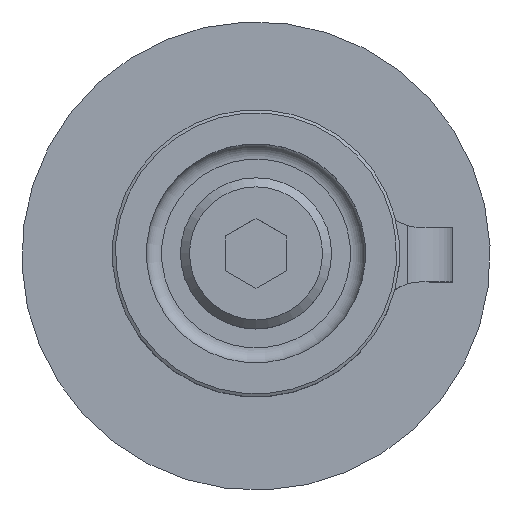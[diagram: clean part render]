
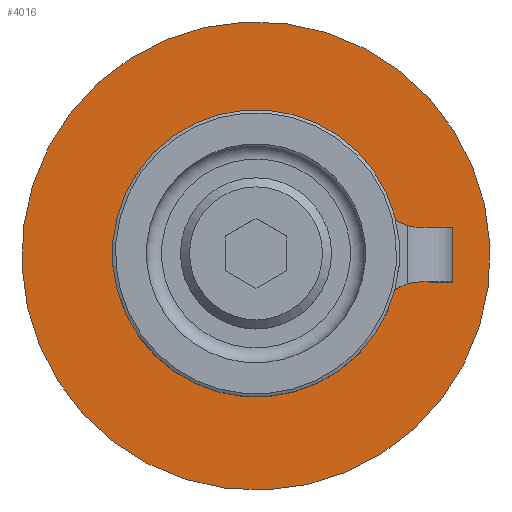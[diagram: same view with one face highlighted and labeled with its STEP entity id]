
A CAD part, top view. The second image highlights one B-rep face of the part: STEP entity #4016.
In plain terms, the highlighted planar face has unit normal (0, 0, 1) as drawn and (0, 1, 0) by its records, which use the part's own axes.
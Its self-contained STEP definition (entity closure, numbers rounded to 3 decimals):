
#3522=FACE_OUTER_BOUND('',#4686,.T.);
#4016=ADVANCED_FACE('',(#3522),#4347,.F.);
#4347=PLANE('',#8155);
#4686=EDGE_LOOP('',(#5143));
#5143=ORIENTED_EDGE('',*,*,#7144,.F.);
#6629=VERTEX_POINT('',#10430);
#7144=EDGE_CURVE('',#6629,#6629,#7893,.T.);
#7893=CIRCLE('',#8153,15.5);
#8153=AXIS2_PLACEMENT_3D('',#10429,#8830,#8831);
#8155=AXIS2_PLACEMENT_3D('',#10432,#8834,#8835);
#8830=DIRECTION('',(0.,-1.,0.));
#8831=DIRECTION('',(0.,0.,-1.));
#8834=DIRECTION('',(0.,-1.,0.));
#8835=DIRECTION('',(0.,0.,-1.));
#10429=CARTESIAN_POINT('',(0.,70.,0.));
#10430=CARTESIAN_POINT('',(0.,70.,-15.5));
#10432=CARTESIAN_POINT('',(0.,70.,0.));
